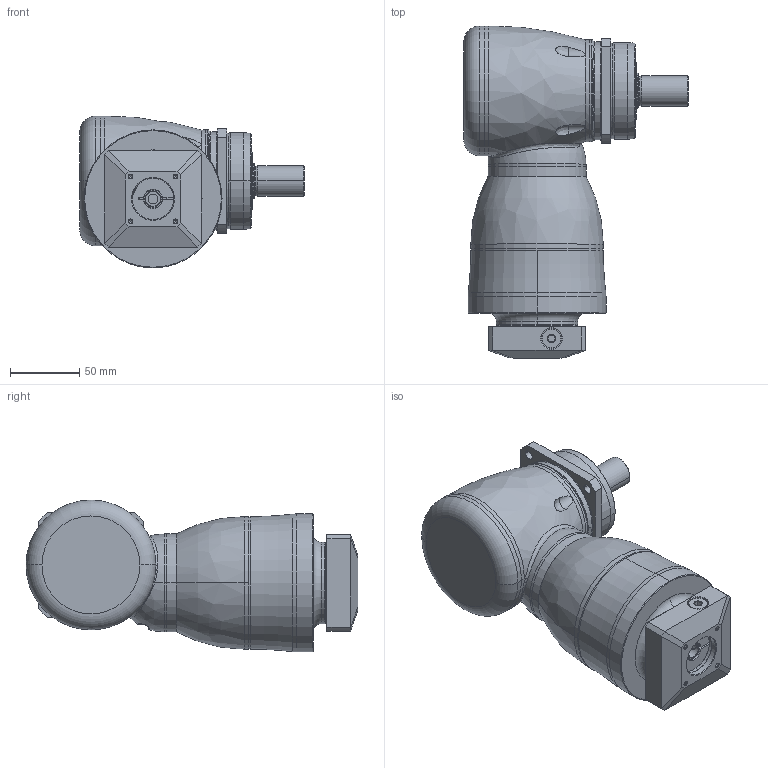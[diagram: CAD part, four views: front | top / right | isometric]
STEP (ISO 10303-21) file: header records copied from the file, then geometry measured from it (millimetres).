
FILE_DESCRIPTION((''),'2;1');
FILE_NAME('KF075_2ST_11-P0409200101_ASM','2016-06-24T',('d01943'),(''),'PRO/ENGINEER BY PARAMETRIC TECHNOLOGY CORPORATION, 2008410','PRO/ENGINEER BY PARAMETRIC TECHNOLOGY CORPORATION, 2008410','');
FILE_SCHEMA(('CONFIG_CONTROL_DESIGN'));
Length unit declared in the file: millimetre
Products named in the file (11): P1008300002; P1804300001; P0915300001; P1315300001; P1007300001; P1317300101; P0409200101; P0503200005; P0912201001; 21711410012; KF075_2ST_11-P0409200101_ASM
Assembly tree (10 placements, depth 2):
  KF075_2ST_11-P0409200101_ASM
    P1008300002
    P1804300001
    P0915300001
    P1315300001
    P1007300001
    P1317300101
    P0409200101
    P0503200005
    P0912201001
    21711410012
Bounding box: 162.5 x 240.5 x 110 mm (x, y, z)
Volume: 1250706.3 mm3; surface area: 193221.6 mm2
Topology: 11 solids, 11 shells, 463 faces, 1065 edges, 635 vertices
Faces by surface type: cylinder 147, cone 108, plane 86, torus 70, bspline 50, sphere 2
Entity records: 20678 total; most frequent: CARTESIAN_POINT 10210, DIRECTION 2260, ORIENTED_EDGE 2068, EDGE_CURVE 1034, AXIS2_PLACEMENT_3D 968, VERTEX_POINT 628, CIRCLE 534, EDGE_LOOP 524
